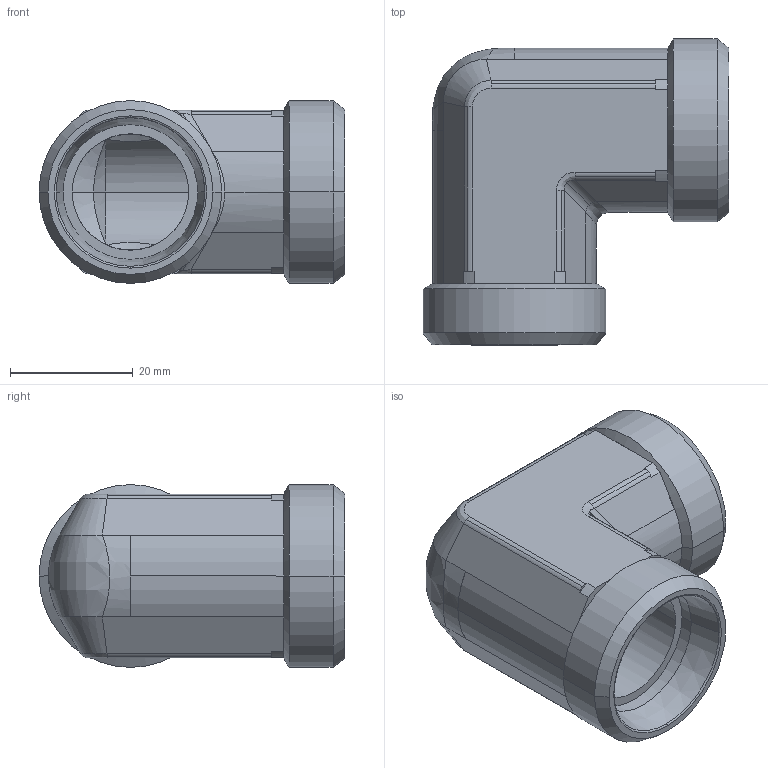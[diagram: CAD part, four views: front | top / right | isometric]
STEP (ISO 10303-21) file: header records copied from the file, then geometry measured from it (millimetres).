
FILE_DESCRIPTION((''),'2;1');
FILE_NAME('103810.stp','2007-10-31T11:53:22',(''),(''),'AutoCAD STEP 2000i','AutoCAD 2000i',', , ');
FILE_SCHEMA(('CONFIG_CONTROL_DESIGN'));
Length unit declared in the file: millimetre
Products named in the file (2): 103810.0; 3090#0
Assembly tree (1 placements, depth 2):
  103810.0
    3090#0
Bounding box: 49.91 x 49.91 x 29.82 mm (x, y, z)
Volume: 21655.9 mm3; surface area: 11239.5 mm2
Topology: 1 solids, 1 shells, 120 faces, 282 edges, 166 vertices
Faces by surface type: cylinder 52, plane 34, cone 20, bspline 14
Entity records: 4412 total; most frequent: CARTESIAN_POINT 1533, DIRECTION 621, ORIENTED_EDGE 564, EDGE_CURVE 282, AXIS2_PLACEMENT_3D 250, VERTEX_POINT 166, CIRCLE 124, EDGE_LOOP 124
